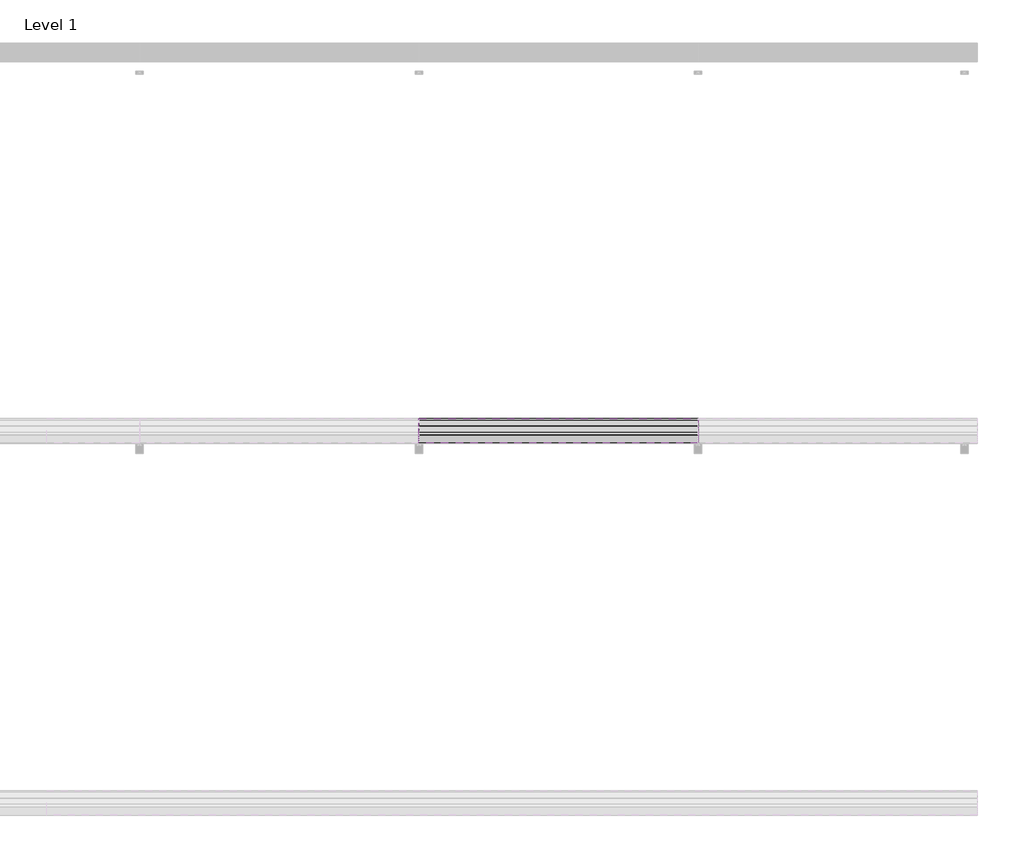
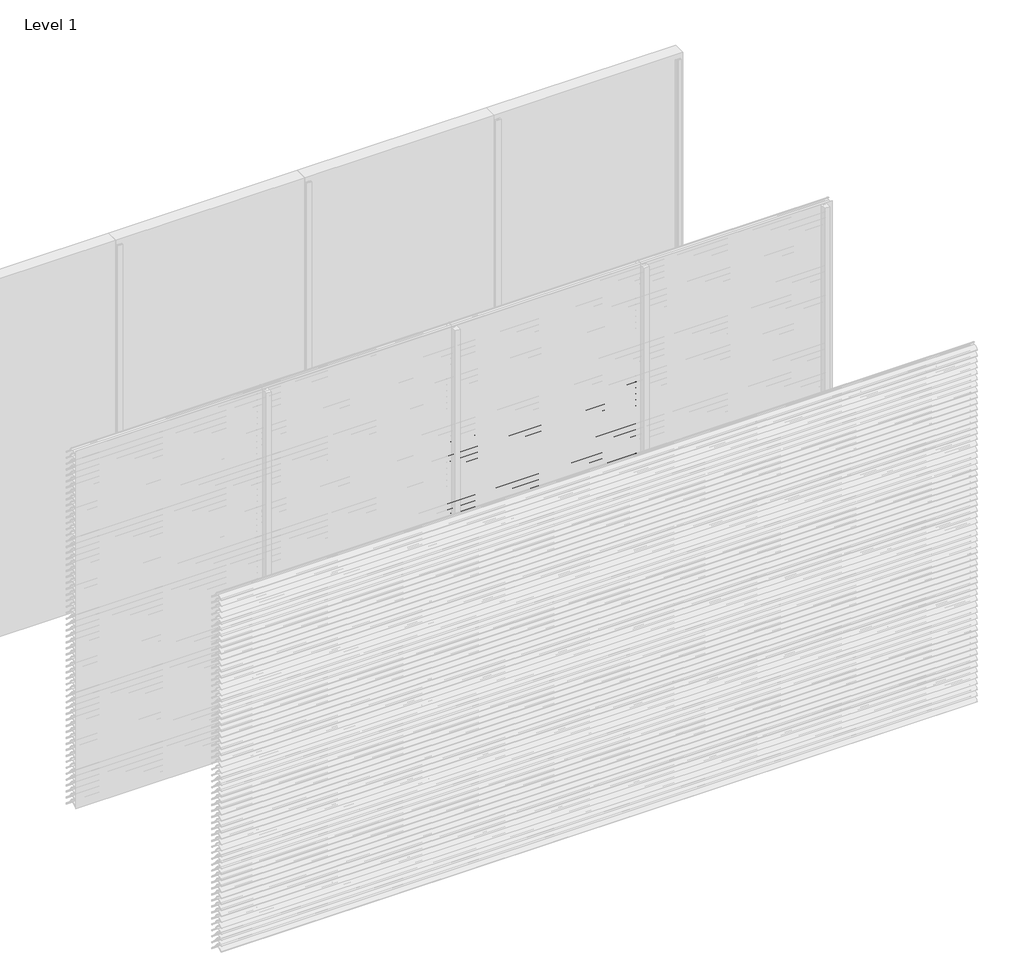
# One storey, part 83 of 173: 17 proxies.
"""IFC4 building model written with IfcOpenShell, lengths in millimetres."""

from ifc_helpers import new_model, si_unit, point, frame, frame_2d, origin, place, context, project, spatial, polyline, circle_curve, trimmed, segment, composite_curve, outline, extrude, element, save

model = new_model("IFC4")

# Units and contexts
model_context = context("Model", 3, world=origin())
ifc_project = project(units=[si_unit("LENGTHUNIT", "METRE", prefix="MILLI")], contexts=[model_context])

# Site, building, storey
site = spatial("IfcSite", under=ifc_project)
building = spatial("IfcBuilding", under=site)
storey = spatial("IfcBuildingStorey", under=building, Name="Level 1", Elevation=0.0)

# Proxies
placement = place(None, origin())
element("IfcBuildingElementProxy", 1, Name="Wall Sweeps", at=placement, inside=storey, context=model_context, shape_type="SweptSolid", body=[
    extrude(outline(composite_curve([segment(polyline([(-29998.0, 1959.1474905), (-29998.0, 1961.6227417)]), True, "CONTINUOUS"), segment(trimmed(circle_curve(frame_2d((-29951.2682172, 1916.2200208)), 65.1557103), [point((-29998.0, 1961.6227417))], [point((-29954.4014323, 1981.3003524))], False, "CARTESIAN"), True, "CONTINUOUS"), segment(polyline([(-29954.4014323, 1981.3003524), (-29934.8315836, 1981.3003524)]), True, "CONTINUOUS"), segment(trimmed(circle_curve(frame_2d((-29732.7329489, 2128.5533172)), 250.0545817), [point((-29934.8315836, 1981.3003524))], [point((-29941.4452143, 1990.8344583))], False, "CARTESIAN"), True, "CONTINUOUS"), segment(trimmed(circle_curve(frame_2d((-29953.2981792, 1985.1737835)), 13.1352966), [point((-29941.4452143, 1990.8344583))], [point((-29953.8171475, 1998.298824))], True, "CARTESIAN"), True, "CONTINUOUS"), segment(polyline([(-29953.8171475, 1998.298824), (-29953.8171475, 2000.0)]), True, "CONTINUOUS"), segment(trimmed(circle_curve(frame_2d((-29953.2981792, 1985.1737835)), 14.8352966), [point((-29953.8171475, 2000.0))], [point((-29939.9637661, 1991.6760487))], False, "CARTESIAN"), True, "CONTINUOUS"), segment(trimmed(circle_curve(frame_2d((-29732.7329489, 2128.5533172)), 248.3545817), [point((-29939.9637661, 1991.6760487))], [point((-29873.8787895, 1924.2059416))], True, "CARTESIAN"), True, "CONTINUOUS"), segment(trimmed(circle_curve(frame_2d((-29883.8147537, 1911.6649442)), 16.0), [point((-29873.8787895, 1924.2059416))], [point((-29867.8648347, 1910.4))], False, "CARTESIAN"), True, "CONTINUOUS"), segment(polyline([(-29867.8648347, 1910.4), (-29869.6712069, 1910.4)]), True, "CONTINUOUS"), segment(trimmed(circle_curve(frame_2d((-29883.8147537, 1911.6649442)), 14.2), [point((-29869.6712069, 1910.4))], [point((-29874.9518628, 1922.7594998))], True, "CARTESIAN"), True, "CONTINUOUS"), segment(trimmed(circle_curve(frame_2d((-29732.7329489, 2128.5533172)), 250.1545817), [point((-29874.9518628, 1922.7594998))], [point((-29933.7064024, 1979.6003524))], False, "CARTESIAN"), True, "CONTINUOUS"), segment(polyline([(-29933.7064024, 1979.6003524), (-29954.3602632, 1979.6003524)]), True, "CONTINUOUS"), segment(trimmed(circle_curve(frame_2d((-29951.2682172, 1916.2200208)), 63.4557103), [point((-29954.3602632, 1979.6003524))], [point((-29998.0, 1959.1474905))], True, "CARTESIAN"), True, "CONTINUOUS")], self_intersect=False)), frame((3000.0, 0.0, 0.0), z_axis=(1.0, 0.0, 0.0), x_axis=(0.0, 1.0, 0.0)), (0.0, 0.0, 1.0), 1500.0),
])
element("IfcBuildingElementProxy", 2, Name="Wall Sweeps", at=placement, inside=storey, context=model_context, shape_type="SweptSolid", body=[
    extrude(outline(composite_curve([segment(polyline([(-29998.0, 1909.1474905), (-29998.0, 1911.6227417)]), True, "CONTINUOUS"), segment(trimmed(circle_curve(frame_2d((-29951.2682172, 1866.2200208)), 65.1557103), [point((-29998.0, 1911.6227417))], [point((-29954.4014323, 1931.3003524))], False, "CARTESIAN"), True, "CONTINUOUS"), segment(polyline([(-29954.4014323, 1931.3003524), (-29934.8315836, 1931.3003524)]), True, "CONTINUOUS"), segment(trimmed(circle_curve(frame_2d((-29732.7329489, 2078.5533172)), 250.0545817), [point((-29934.8315836, 1931.3003524))], [point((-29941.4452143, 1940.8344583))], False, "CARTESIAN"), True, "CONTINUOUS"), segment(trimmed(circle_curve(frame_2d((-29953.2981792, 1935.1737835)), 13.1352966), [point((-29941.4452143, 1940.8344583))], [point((-29953.8171475, 1948.298824))], True, "CARTESIAN"), True, "CONTINUOUS"), segment(polyline([(-29953.8171475, 1948.298824), (-29953.8171475, 1950.0)]), True, "CONTINUOUS"), segment(trimmed(circle_curve(frame_2d((-29953.2981792, 1935.1737835)), 14.8352966), [point((-29953.8171475, 1950.0))], [point((-29939.9637661, 1941.6760487))], False, "CARTESIAN"), True, "CONTINUOUS"), segment(trimmed(circle_curve(frame_2d((-29732.7329489, 2078.5533172)), 248.3545817), [point((-29939.9637661, 1941.6760487))], [point((-29873.8787895, 1874.2059416))], True, "CARTESIAN"), True, "CONTINUOUS"), segment(trimmed(circle_curve(frame_2d((-29883.8147537, 1861.6649442)), 16.0), [point((-29873.8787895, 1874.2059416))], [point((-29867.8648347, 1860.4))], False, "CARTESIAN"), True, "CONTINUOUS"), segment(polyline([(-29867.8648347, 1860.4), (-29869.6712069, 1860.4)]), True, "CONTINUOUS"), segment(trimmed(circle_curve(frame_2d((-29883.8147537, 1861.6649442)), 14.2), [point((-29869.6712069, 1860.4))], [point((-29874.9518628, 1872.7594998))], True, "CARTESIAN"), True, "CONTINUOUS"), segment(trimmed(circle_curve(frame_2d((-29732.7329489, 2078.5533172)), 250.1545817), [point((-29874.9518628, 1872.7594998))], [point((-29933.7064024, 1929.6003524))], False, "CARTESIAN"), True, "CONTINUOUS"), segment(polyline([(-29933.7064024, 1929.6003524), (-29954.3602632, 1929.6003524)]), True, "CONTINUOUS"), segment(trimmed(circle_curve(frame_2d((-29951.2682172, 1866.2200208)), 63.4557103), [point((-29954.3602632, 1929.6003524))], [point((-29998.0, 1909.1474905))], True, "CARTESIAN"), True, "CONTINUOUS")], self_intersect=False)), frame((3000.0, 0.0, 0.0), z_axis=(1.0, 0.0, 0.0), x_axis=(0.0, 1.0, 0.0)), (0.0, 0.0, 1.0), 1500.0),
])
element("IfcBuildingElementProxy", 3, Name="Wall Sweeps", at=placement, inside=storey, context=model_context, shape_type="SweptSolid", body=[
    extrude(outline(composite_curve([segment(polyline([(-29998.0, 1859.1474905), (-29998.0, 1861.6227417)]), True, "CONTINUOUS"), segment(trimmed(circle_curve(frame_2d((-29951.2682172, 1816.2200208)), 65.1557103), [point((-29998.0, 1861.6227417))], [point((-29954.4014323, 1881.3003524))], False, "CARTESIAN"), True, "CONTINUOUS"), segment(polyline([(-29954.4014323, 1881.3003524), (-29934.8315836, 1881.3003524)]), True, "CONTINUOUS"), segment(trimmed(circle_curve(frame_2d((-29732.7329489, 2028.5533172)), 250.0545817), [point((-29934.8315836, 1881.3003524))], [point((-29941.4452143, 1890.8344583))], False, "CARTESIAN"), True, "CONTINUOUS"), segment(trimmed(circle_curve(frame_2d((-29953.2981792, 1885.1737835)), 13.1352966), [point((-29941.4452143, 1890.8344583))], [point((-29953.8171475, 1898.298824))], True, "CARTESIAN"), True, "CONTINUOUS"), segment(polyline([(-29953.8171475, 1898.298824), (-29953.8171475, 1900.0)]), True, "CONTINUOUS"), segment(trimmed(circle_curve(frame_2d((-29953.2981792, 1885.1737835)), 14.8352966), [point((-29953.8171475, 1900.0))], [point((-29939.9637661, 1891.6760487))], False, "CARTESIAN"), True, "CONTINUOUS"), segment(trimmed(circle_curve(frame_2d((-29732.7329489, 2028.5533172)), 248.3545817), [point((-29939.9637661, 1891.6760487))], [point((-29873.8787895, 1824.2059416))], True, "CARTESIAN"), True, "CONTINUOUS"), segment(trimmed(circle_curve(frame_2d((-29883.8147537, 1811.6649442)), 16.0), [point((-29873.8787895, 1824.2059416))], [point((-29867.8648347, 1810.4))], False, "CARTESIAN"), True, "CONTINUOUS"), segment(polyline([(-29867.8648347, 1810.4), (-29869.6712069, 1810.4)]), True, "CONTINUOUS"), segment(trimmed(circle_curve(frame_2d((-29883.8147537, 1811.6649442)), 14.2), [point((-29869.6712069, 1810.4))], [point((-29874.9518628, 1822.7594998))], True, "CARTESIAN"), True, "CONTINUOUS"), segment(trimmed(circle_curve(frame_2d((-29732.7329489, 2028.5533172)), 250.1545817), [point((-29874.9518628, 1822.7594998))], [point((-29933.7064024, 1879.6003524))], False, "CARTESIAN"), True, "CONTINUOUS"), segment(polyline([(-29933.7064024, 1879.6003524), (-29954.3602632, 1879.6003524)]), True, "CONTINUOUS"), segment(trimmed(circle_curve(frame_2d((-29951.2682172, 1816.2200208)), 63.4557103), [point((-29954.3602632, 1879.6003524))], [point((-29998.0, 1859.1474905))], True, "CARTESIAN"), True, "CONTINUOUS")], self_intersect=False)), frame((3000.0, 0.0, 0.0), z_axis=(1.0, 0.0, 0.0), x_axis=(0.0, 1.0, 0.0)), (0.0, 0.0, 1.0), 1500.0),
])
element("IfcBuildingElementProxy", 4, Name="Wall Sweeps", at=placement, inside=storey, context=model_context, shape_type="SweptSolid", body=[
    extrude(outline(composite_curve([segment(polyline([(-29998.0, 1809.1474905), (-29998.0, 1811.6227417)]), True, "CONTINUOUS"), segment(trimmed(circle_curve(frame_2d((-29951.2682172, 1766.2200208)), 65.1557103), [point((-29998.0, 1811.6227417))], [point((-29954.4014323, 1831.3003524))], False, "CARTESIAN"), True, "CONTINUOUS"), segment(polyline([(-29954.4014323, 1831.3003524), (-29934.8315836, 1831.3003524)]), True, "CONTINUOUS"), segment(trimmed(circle_curve(frame_2d((-29732.7329489, 1978.5533172)), 250.0545817), [point((-29934.8315836, 1831.3003524))], [point((-29941.4452143, 1840.8344583))], False, "CARTESIAN"), True, "CONTINUOUS"), segment(trimmed(circle_curve(frame_2d((-29953.2981792, 1835.1737835)), 13.1352966), [point((-29941.4452143, 1840.8344583))], [point((-29953.8171475, 1848.298824))], True, "CARTESIAN"), True, "CONTINUOUS"), segment(polyline([(-29953.8171475, 1848.298824), (-29953.8171475, 1850.0)]), True, "CONTINUOUS"), segment(trimmed(circle_curve(frame_2d((-29953.2981792, 1835.1737835)), 14.8352966), [point((-29953.8171475, 1850.0))], [point((-29939.9637661, 1841.6760487))], False, "CARTESIAN"), True, "CONTINUOUS"), segment(trimmed(circle_curve(frame_2d((-29732.7329489, 1978.5533172)), 248.3545817), [point((-29939.9637661, 1841.6760487))], [point((-29873.8787895, 1774.2059416))], True, "CARTESIAN"), True, "CONTINUOUS"), segment(trimmed(circle_curve(frame_2d((-29883.8147537, 1761.6649442)), 16.0), [point((-29873.8787895, 1774.2059416))], [point((-29867.8648347, 1760.4))], False, "CARTESIAN"), True, "CONTINUOUS"), segment(polyline([(-29867.8648347, 1760.4), (-29869.6712069, 1760.4)]), True, "CONTINUOUS"), segment(trimmed(circle_curve(frame_2d((-29883.8147537, 1761.6649442)), 14.2), [point((-29869.6712069, 1760.4))], [point((-29874.9518628, 1772.7594998))], True, "CARTESIAN"), True, "CONTINUOUS"), segment(trimmed(circle_curve(frame_2d((-29732.7329489, 1978.5533172)), 250.1545817), [point((-29874.9518628, 1772.7594998))], [point((-29933.7064024, 1829.6003524))], False, "CARTESIAN"), True, "CONTINUOUS"), segment(polyline([(-29933.7064024, 1829.6003524), (-29954.3602632, 1829.6003524)]), True, "CONTINUOUS"), segment(trimmed(circle_curve(frame_2d((-29951.2682172, 1766.2200208)), 63.4557103), [point((-29954.3602632, 1829.6003524))], [point((-29998.0, 1809.1474905))], True, "CARTESIAN"), True, "CONTINUOUS")], self_intersect=False)), frame((3000.0, 0.0, 0.0), z_axis=(1.0, 0.0, 0.0), x_axis=(0.0, 1.0, 0.0)), (0.0, 0.0, 1.0), 1500.0),
])
element("IfcBuildingElementProxy", 5, Name="Wall Sweeps", at=placement, inside=storey, context=model_context, shape_type="SweptSolid", body=[
    extrude(outline(composite_curve([segment(polyline([(-29998.0, 1759.1474905), (-29998.0, 1761.6227417)]), True, "CONTINUOUS"), segment(trimmed(circle_curve(frame_2d((-29951.2682172, 1716.2200208)), 65.1557103), [point((-29998.0, 1761.6227417))], [point((-29954.4014323, 1781.3003524))], False, "CARTESIAN"), True, "CONTINUOUS"), segment(polyline([(-29954.4014323, 1781.3003524), (-29934.8315836, 1781.3003524)]), True, "CONTINUOUS"), segment(trimmed(circle_curve(frame_2d((-29732.7329489, 1928.5533172)), 250.0545817), [point((-29934.8315836, 1781.3003524))], [point((-29941.4452143, 1790.8344583))], False, "CARTESIAN"), True, "CONTINUOUS"), segment(trimmed(circle_curve(frame_2d((-29953.2981792, 1785.1737835)), 13.1352966), [point((-29941.4452143, 1790.8344583))], [point((-29953.8171475, 1798.298824))], True, "CARTESIAN"), True, "CONTINUOUS"), segment(polyline([(-29953.8171475, 1798.298824), (-29953.8171475, 1800.0)]), True, "CONTINUOUS"), segment(trimmed(circle_curve(frame_2d((-29953.2981792, 1785.1737835)), 14.8352966), [point((-29953.8171475, 1800.0))], [point((-29939.9637661, 1791.6760487))], False, "CARTESIAN"), True, "CONTINUOUS"), segment(trimmed(circle_curve(frame_2d((-29732.7329489, 1928.5533172)), 248.3545817), [point((-29939.9637661, 1791.6760487))], [point((-29873.8787895, 1724.2059416))], True, "CARTESIAN"), True, "CONTINUOUS"), segment(trimmed(circle_curve(frame_2d((-29883.8147537, 1711.6649442)), 16.0), [point((-29873.8787895, 1724.2059416))], [point((-29867.8648347, 1710.4))], False, "CARTESIAN"), True, "CONTINUOUS"), segment(polyline([(-29867.8648347, 1710.4), (-29869.6712069, 1710.4)]), True, "CONTINUOUS"), segment(trimmed(circle_curve(frame_2d((-29883.8147537, 1711.6649442)), 14.2), [point((-29869.6712069, 1710.4))], [point((-29874.9518628, 1722.7594998))], True, "CARTESIAN"), True, "CONTINUOUS"), segment(trimmed(circle_curve(frame_2d((-29732.7329489, 1928.5533172)), 250.1545817), [point((-29874.9518628, 1722.7594998))], [point((-29933.7064024, 1779.6003524))], False, "CARTESIAN"), True, "CONTINUOUS"), segment(polyline([(-29933.7064024, 1779.6003524), (-29954.3602632, 1779.6003524)]), True, "CONTINUOUS"), segment(trimmed(circle_curve(frame_2d((-29951.2682172, 1716.2200208)), 63.4557103), [point((-29954.3602632, 1779.6003524))], [point((-29998.0, 1759.1474905))], True, "CARTESIAN"), True, "CONTINUOUS")], self_intersect=False)), frame((3000.0, 0.0, 0.0), z_axis=(1.0, 0.0, 0.0), x_axis=(0.0, 1.0, 0.0)), (0.0, 0.0, 1.0), 1500.0),
])
element("IfcBuildingElementProxy", 6, Name="Wall Sweeps", at=placement, inside=storey, context=model_context, shape_type="SweptSolid", body=[
    extrude(outline(composite_curve([segment(polyline([(-29998.0, 1709.1474905), (-29998.0, 1711.6227417)]), True, "CONTINUOUS"), segment(trimmed(circle_curve(frame_2d((-29951.2682172, 1666.2200208)), 65.1557103), [point((-29998.0, 1711.6227417))], [point((-29954.4014323, 1731.3003524))], False, "CARTESIAN"), True, "CONTINUOUS"), segment(polyline([(-29954.4014323, 1731.3003524), (-29934.8315836, 1731.3003524)]), True, "CONTINUOUS"), segment(trimmed(circle_curve(frame_2d((-29732.7329489, 1878.5533172)), 250.0545817), [point((-29934.8315836, 1731.3003524))], [point((-29941.4452143, 1740.8344583))], False, "CARTESIAN"), True, "CONTINUOUS"), segment(trimmed(circle_curve(frame_2d((-29953.2981792, 1735.1737835)), 13.1352966), [point((-29941.4452143, 1740.8344583))], [point((-29953.8171475, 1748.298824))], True, "CARTESIAN"), True, "CONTINUOUS"), segment(polyline([(-29953.8171475, 1748.298824), (-29953.8171475, 1750.0)]), True, "CONTINUOUS"), segment(trimmed(circle_curve(frame_2d((-29953.2981792, 1735.1737835)), 14.8352966), [point((-29953.8171475, 1750.0))], [point((-29939.9637661, 1741.6760487))], False, "CARTESIAN"), True, "CONTINUOUS"), segment(trimmed(circle_curve(frame_2d((-29732.7329489, 1878.5533172)), 248.3545817), [point((-29939.9637661, 1741.6760487))], [point((-29873.8787895, 1674.2059416))], True, "CARTESIAN"), True, "CONTINUOUS"), segment(trimmed(circle_curve(frame_2d((-29883.8147537, 1661.6649442)), 16.0), [point((-29873.8787895, 1674.2059416))], [point((-29867.8648347, 1660.4))], False, "CARTESIAN"), True, "CONTINUOUS"), segment(polyline([(-29867.8648347, 1660.4), (-29869.6712069, 1660.4)]), True, "CONTINUOUS"), segment(trimmed(circle_curve(frame_2d((-29883.8147537, 1661.6649442)), 14.2), [point((-29869.6712069, 1660.4))], [point((-29874.9518628, 1672.7594998))], True, "CARTESIAN"), True, "CONTINUOUS"), segment(trimmed(circle_curve(frame_2d((-29732.7329489, 1878.5533172)), 250.1545817), [point((-29874.9518628, 1672.7594998))], [point((-29933.7064024, 1729.6003524))], False, "CARTESIAN"), True, "CONTINUOUS"), segment(polyline([(-29933.7064024, 1729.6003524), (-29954.3602632, 1729.6003524)]), True, "CONTINUOUS"), segment(trimmed(circle_curve(frame_2d((-29951.2682172, 1666.2200208)), 63.4557103), [point((-29954.3602632, 1729.6003524))], [point((-29998.0, 1709.1474905))], True, "CARTESIAN"), True, "CONTINUOUS")], self_intersect=False)), frame((3000.0, 0.0, 0.0), z_axis=(1.0, 0.0, 0.0), x_axis=(0.0, 1.0, 0.0)), (0.0, 0.0, 1.0), 1500.0),
])
element("IfcBuildingElementProxy", 7, Name="Wall Sweeps", at=placement, inside=storey, context=model_context, shape_type="SweptSolid", body=[
    extrude(outline(composite_curve([segment(polyline([(-29998.0, 1659.1474905), (-29998.0, 1661.6227417)]), True, "CONTINUOUS"), segment(trimmed(circle_curve(frame_2d((-29951.2682172, 1616.2200208)), 65.1557103), [point((-29998.0, 1661.6227417))], [point((-29954.4014323, 1681.3003524))], False, "CARTESIAN"), True, "CONTINUOUS"), segment(polyline([(-29954.4014323, 1681.3003524), (-29934.8315836, 1681.3003524)]), True, "CONTINUOUS"), segment(trimmed(circle_curve(frame_2d((-29732.7329489, 1828.5533172)), 250.0545817), [point((-29934.8315836, 1681.3003524))], [point((-29941.4452143, 1690.8344583))], False, "CARTESIAN"), True, "CONTINUOUS"), segment(trimmed(circle_curve(frame_2d((-29953.2981792, 1685.1737835)), 13.1352966), [point((-29941.4452143, 1690.8344583))], [point((-29953.8171475, 1698.298824))], True, "CARTESIAN"), True, "CONTINUOUS"), segment(polyline([(-29953.8171475, 1698.298824), (-29953.8171475, 1700.0)]), True, "CONTINUOUS"), segment(trimmed(circle_curve(frame_2d((-29953.2981792, 1685.1737835)), 14.8352966), [point((-29953.8171475, 1700.0))], [point((-29939.9637661, 1691.6760487))], False, "CARTESIAN"), True, "CONTINUOUS"), segment(trimmed(circle_curve(frame_2d((-29732.7329489, 1828.5533172)), 248.3545817), [point((-29939.9637661, 1691.6760487))], [point((-29873.8787895, 1624.2059416))], True, "CARTESIAN"), True, "CONTINUOUS"), segment(trimmed(circle_curve(frame_2d((-29883.8147537, 1611.6649442)), 16.0), [point((-29873.8787895, 1624.2059416))], [point((-29867.8648347, 1610.4))], False, "CARTESIAN"), True, "CONTINUOUS"), segment(polyline([(-29867.8648347, 1610.4), (-29869.6712069, 1610.4)]), True, "CONTINUOUS"), segment(trimmed(circle_curve(frame_2d((-29883.8147537, 1611.6649442)), 14.2), [point((-29869.6712069, 1610.4))], [point((-29874.9518628, 1622.7594998))], True, "CARTESIAN"), True, "CONTINUOUS"), segment(trimmed(circle_curve(frame_2d((-29732.7329489, 1828.5533172)), 250.1545817), [point((-29874.9518628, 1622.7594998))], [point((-29933.7064024, 1679.6003524))], False, "CARTESIAN"), True, "CONTINUOUS"), segment(polyline([(-29933.7064024, 1679.6003524), (-29954.3602632, 1679.6003524)]), True, "CONTINUOUS"), segment(trimmed(circle_curve(frame_2d((-29951.2682172, 1616.2200208)), 63.4557103), [point((-29954.3602632, 1679.6003524))], [point((-29998.0, 1659.1474905))], True, "CARTESIAN"), True, "CONTINUOUS")], self_intersect=False)), frame((3000.0, 0.0, 0.0), z_axis=(1.0, 0.0, 0.0), x_axis=(0.0, 1.0, 0.0)), (0.0, 0.0, 1.0), 1500.0),
])
element("IfcBuildingElementProxy", 8, Name="Wall Sweeps", at=placement, inside=storey, context=model_context, shape_type="SweptSolid", body=[
    extrude(outline(composite_curve([segment(polyline([(-29998.0, 1609.1474905), (-29998.0, 1611.6227417)]), True, "CONTINUOUS"), segment(trimmed(circle_curve(frame_2d((-29951.2682172, 1566.2200208)), 65.1557103), [point((-29998.0, 1611.6227417))], [point((-29954.4014323, 1631.3003524))], False, "CARTESIAN"), True, "CONTINUOUS"), segment(polyline([(-29954.4014323, 1631.3003524), (-29934.8315836, 1631.3003524)]), True, "CONTINUOUS"), segment(trimmed(circle_curve(frame_2d((-29732.7329489, 1778.5533172)), 250.0545817), [point((-29934.8315836, 1631.3003524))], [point((-29941.4452143, 1640.8344583))], False, "CARTESIAN"), True, "CONTINUOUS"), segment(trimmed(circle_curve(frame_2d((-29953.2981792, 1635.1737835)), 13.1352966), [point((-29941.4452143, 1640.8344583))], [point((-29953.8171475, 1648.298824))], True, "CARTESIAN"), True, "CONTINUOUS"), segment(polyline([(-29953.8171475, 1648.298824), (-29953.8171475, 1650.0)]), True, "CONTINUOUS"), segment(trimmed(circle_curve(frame_2d((-29953.2981792, 1635.1737835)), 14.8352966), [point((-29953.8171475, 1650.0))], [point((-29939.9637661, 1641.6760487))], False, "CARTESIAN"), True, "CONTINUOUS"), segment(trimmed(circle_curve(frame_2d((-29732.7329489, 1778.5533172)), 248.3545817), [point((-29939.9637661, 1641.6760487))], [point((-29873.8787895, 1574.2059416))], True, "CARTESIAN"), True, "CONTINUOUS"), segment(trimmed(circle_curve(frame_2d((-29883.8147537, 1561.6649442)), 16.0), [point((-29873.8787895, 1574.2059416))], [point((-29867.8648347, 1560.4))], False, "CARTESIAN"), True, "CONTINUOUS"), segment(polyline([(-29867.8648347, 1560.4), (-29869.6712069, 1560.4)]), True, "CONTINUOUS"), segment(trimmed(circle_curve(frame_2d((-29883.8147537, 1561.6649442)), 14.2), [point((-29869.6712069, 1560.4))], [point((-29874.9518628, 1572.7594998))], True, "CARTESIAN"), True, "CONTINUOUS"), segment(trimmed(circle_curve(frame_2d((-29732.7329489, 1778.5533172)), 250.1545817), [point((-29874.9518628, 1572.7594998))], [point((-29933.7064024, 1629.6003524))], False, "CARTESIAN"), True, "CONTINUOUS"), segment(polyline([(-29933.7064024, 1629.6003524), (-29954.3602632, 1629.6003524)]), True, "CONTINUOUS"), segment(trimmed(circle_curve(frame_2d((-29951.2682172, 1566.2200208)), 63.4557103), [point((-29954.3602632, 1629.6003524))], [point((-29998.0, 1609.1474905))], True, "CARTESIAN"), True, "CONTINUOUS")], self_intersect=False)), frame((3000.0, 0.0, 0.0), z_axis=(1.0, 0.0, 0.0), x_axis=(0.0, 1.0, 0.0)), (0.0, 0.0, 1.0), 1500.0),
])
element("IfcBuildingElementProxy", 9, Name="Wall Sweeps", at=placement, inside=storey, context=model_context, shape_type="SweptSolid", body=[
    extrude(outline(composite_curve([segment(polyline([(-29998.0, 1559.1474905), (-29998.0, 1561.6227417)]), True, "CONTINUOUS"), segment(trimmed(circle_curve(frame_2d((-29951.2682172, 1516.2200208)), 65.1557103), [point((-29998.0, 1561.6227417))], [point((-29954.4014323, 1581.3003524))], False, "CARTESIAN"), True, "CONTINUOUS"), segment(polyline([(-29954.4014323, 1581.3003524), (-29934.8315836, 1581.3003524)]), True, "CONTINUOUS"), segment(trimmed(circle_curve(frame_2d((-29732.7329489, 1728.5533172)), 250.0545817), [point((-29934.8315836, 1581.3003524))], [point((-29941.4452143, 1590.8344583))], False, "CARTESIAN"), True, "CONTINUOUS"), segment(trimmed(circle_curve(frame_2d((-29953.2981792, 1585.1737835)), 13.1352966), [point((-29941.4452143, 1590.8344583))], [point((-29953.8171475, 1598.298824))], True, "CARTESIAN"), True, "CONTINUOUS"), segment(polyline([(-29953.8171475, 1598.298824), (-29953.8171475, 1600.0)]), True, "CONTINUOUS"), segment(trimmed(circle_curve(frame_2d((-29953.2981792, 1585.1737835)), 14.8352966), [point((-29953.8171475, 1600.0))], [point((-29939.9637661, 1591.6760487))], False, "CARTESIAN"), True, "CONTINUOUS"), segment(trimmed(circle_curve(frame_2d((-29732.7329489, 1728.5533172)), 248.3545817), [point((-29939.9637661, 1591.6760487))], [point((-29873.8787895, 1524.2059416))], True, "CARTESIAN"), True, "CONTINUOUS"), segment(trimmed(circle_curve(frame_2d((-29883.8147537, 1511.6649442)), 16.0), [point((-29873.8787895, 1524.2059416))], [point((-29867.8648347, 1510.4))], False, "CARTESIAN"), True, "CONTINUOUS"), segment(polyline([(-29867.8648347, 1510.4), (-29869.6712069, 1510.4)]), True, "CONTINUOUS"), segment(trimmed(circle_curve(frame_2d((-29883.8147537, 1511.6649442)), 14.2), [point((-29869.6712069, 1510.4))], [point((-29874.9518628, 1522.7594998))], True, "CARTESIAN"), True, "CONTINUOUS"), segment(trimmed(circle_curve(frame_2d((-29732.7329489, 1728.5533172)), 250.1545817), [point((-29874.9518628, 1522.7594998))], [point((-29933.7064024, 1579.6003524))], False, "CARTESIAN"), True, "CONTINUOUS"), segment(polyline([(-29933.7064024, 1579.6003524), (-29954.3602632, 1579.6003524)]), True, "CONTINUOUS"), segment(trimmed(circle_curve(frame_2d((-29951.2682172, 1516.2200208)), 63.4557103), [point((-29954.3602632, 1579.6003524))], [point((-29998.0, 1559.1474905))], True, "CARTESIAN"), True, "CONTINUOUS")], self_intersect=False)), frame((3000.0, 0.0, 0.0), z_axis=(1.0, 0.0, 0.0), x_axis=(0.0, 1.0, 0.0)), (0.0, 0.0, 1.0), 1500.0),
])
element("IfcBuildingElementProxy", 10, Name="Wall Sweeps", at=placement, inside=storey, context=model_context, shape_type="SweptSolid", body=[
    extrude(outline(composite_curve([segment(polyline([(-29998.0, 1509.1474905), (-29998.0, 1511.6227417)]), True, "CONTINUOUS"), segment(trimmed(circle_curve(frame_2d((-29951.2682172, 1466.2200208)), 65.1557103), [point((-29998.0, 1511.6227417))], [point((-29954.4014323, 1531.3003524))], False, "CARTESIAN"), True, "CONTINUOUS"), segment(polyline([(-29954.4014323, 1531.3003524), (-29934.8315836, 1531.3003524)]), True, "CONTINUOUS"), segment(trimmed(circle_curve(frame_2d((-29732.7329489, 1678.5533172)), 250.0545817), [point((-29934.8315836, 1531.3003524))], [point((-29941.4452143, 1540.8344583))], False, "CARTESIAN"), True, "CONTINUOUS"), segment(trimmed(circle_curve(frame_2d((-29953.2981792, 1535.1737835)), 13.1352966), [point((-29941.4452143, 1540.8344583))], [point((-29953.8171475, 1548.298824))], True, "CARTESIAN"), True, "CONTINUOUS"), segment(polyline([(-29953.8171475, 1548.298824), (-29953.8171475, 1550.0)]), True, "CONTINUOUS"), segment(trimmed(circle_curve(frame_2d((-29953.2981792, 1535.1737835)), 14.8352966), [point((-29953.8171475, 1550.0))], [point((-29939.9637661, 1541.6760487))], False, "CARTESIAN"), True, "CONTINUOUS"), segment(trimmed(circle_curve(frame_2d((-29732.7329489, 1678.5533172)), 248.3545817), [point((-29939.9637661, 1541.6760487))], [point((-29873.8787895, 1474.2059416))], True, "CARTESIAN"), True, "CONTINUOUS"), segment(trimmed(circle_curve(frame_2d((-29883.8147537, 1461.6649442)), 16.0), [point((-29873.8787895, 1474.2059416))], [point((-29867.8648347, 1460.4))], False, "CARTESIAN"), True, "CONTINUOUS"), segment(polyline([(-29867.8648347, 1460.4), (-29869.6712069, 1460.4)]), True, "CONTINUOUS"), segment(trimmed(circle_curve(frame_2d((-29883.8147537, 1461.6649442)), 14.2), [point((-29869.6712069, 1460.4))], [point((-29874.9518628, 1472.7594998))], True, "CARTESIAN"), True, "CONTINUOUS"), segment(trimmed(circle_curve(frame_2d((-29732.7329489, 1678.5533172)), 250.1545817), [point((-29874.9518628, 1472.7594998))], [point((-29933.7064024, 1529.6003524))], False, "CARTESIAN"), True, "CONTINUOUS"), segment(polyline([(-29933.7064024, 1529.6003524), (-29954.3602632, 1529.6003524)]), True, "CONTINUOUS"), segment(trimmed(circle_curve(frame_2d((-29951.2682172, 1466.2200208)), 63.4557103), [point((-29954.3602632, 1529.6003524))], [point((-29998.0, 1509.1474905))], True, "CARTESIAN"), True, "CONTINUOUS")], self_intersect=False)), frame((3000.0, 0.0, 0.0), z_axis=(1.0, 0.0, 0.0), x_axis=(0.0, 1.0, 0.0)), (0.0, 0.0, 1.0), 1500.0),
])
element("IfcBuildingElementProxy", 11, Name="Wall Sweeps", at=placement, inside=storey, context=model_context, shape_type="SweptSolid", body=[
    extrude(outline(composite_curve([segment(polyline([(-29998.0, 1459.1474905), (-29998.0, 1461.6227417)]), True, "CONTINUOUS"), segment(trimmed(circle_curve(frame_2d((-29951.2682172, 1416.2200208)), 65.1557103), [point((-29998.0, 1461.6227417))], [point((-29954.4014323, 1481.3003524))], False, "CARTESIAN"), True, "CONTINUOUS"), segment(polyline([(-29954.4014323, 1481.3003524), (-29934.8315836, 1481.3003524)]), True, "CONTINUOUS"), segment(trimmed(circle_curve(frame_2d((-29732.7329489, 1628.5533172)), 250.0545817), [point((-29934.8315836, 1481.3003524))], [point((-29941.4452143, 1490.8344583))], False, "CARTESIAN"), True, "CONTINUOUS"), segment(trimmed(circle_curve(frame_2d((-29953.2981792, 1485.1737835)), 13.1352966), [point((-29941.4452143, 1490.8344583))], [point((-29953.8171475, 1498.298824))], True, "CARTESIAN"), True, "CONTINUOUS"), segment(polyline([(-29953.8171475, 1498.298824), (-29953.8171475, 1500.0)]), True, "CONTINUOUS"), segment(trimmed(circle_curve(frame_2d((-29953.2981792, 1485.1737835)), 14.8352966), [point((-29953.8171475, 1500.0))], [point((-29939.9637661, 1491.6760487))], False, "CARTESIAN"), True, "CONTINUOUS"), segment(trimmed(circle_curve(frame_2d((-29732.7329489, 1628.5533172)), 248.3545817), [point((-29939.9637661, 1491.6760487))], [point((-29873.8787895, 1424.2059416))], True, "CARTESIAN"), True, "CONTINUOUS"), segment(trimmed(circle_curve(frame_2d((-29883.8147537, 1411.6649442)), 16.0), [point((-29873.8787895, 1424.2059416))], [point((-29867.8648347, 1410.4))], False, "CARTESIAN"), True, "CONTINUOUS"), segment(polyline([(-29867.8648347, 1410.4), (-29869.6712069, 1410.4)]), True, "CONTINUOUS"), segment(trimmed(circle_curve(frame_2d((-29883.8147537, 1411.6649442)), 14.2), [point((-29869.6712069, 1410.4))], [point((-29874.9518628, 1422.7594998))], True, "CARTESIAN"), True, "CONTINUOUS"), segment(trimmed(circle_curve(frame_2d((-29732.7329489, 1628.5533172)), 250.1545817), [point((-29874.9518628, 1422.7594998))], [point((-29933.7064024, 1479.6003524))], False, "CARTESIAN"), True, "CONTINUOUS"), segment(polyline([(-29933.7064024, 1479.6003524), (-29954.3602632, 1479.6003524)]), True, "CONTINUOUS"), segment(trimmed(circle_curve(frame_2d((-29951.2682172, 1416.2200208)), 63.4557103), [point((-29954.3602632, 1479.6003524))], [point((-29998.0, 1459.1474905))], True, "CARTESIAN"), True, "CONTINUOUS")], self_intersect=False)), frame((3000.0, 0.0, 0.0), z_axis=(1.0, 0.0, 0.0), x_axis=(0.0, 1.0, 0.0)), (0.0, 0.0, 1.0), 1500.0),
])
element("IfcBuildingElementProxy", 12, Name="Wall Sweeps", at=placement, inside=storey, context=model_context, shape_type="SweptSolid", body=[
    extrude(outline(composite_curve([segment(polyline([(-29998.0, 1409.1474905), (-29998.0, 1411.6227417)]), True, "CONTINUOUS"), segment(trimmed(circle_curve(frame_2d((-29951.2682172, 1366.2200208)), 65.1557103), [point((-29998.0, 1411.6227417))], [point((-29954.4014323, 1431.3003524))], False, "CARTESIAN"), True, "CONTINUOUS"), segment(polyline([(-29954.4014323, 1431.3003524), (-29934.8315836, 1431.3003524)]), True, "CONTINUOUS"), segment(trimmed(circle_curve(frame_2d((-29732.7329489, 1578.5533172)), 250.0545817), [point((-29934.8315836, 1431.3003524))], [point((-29941.4452143, 1440.8344583))], False, "CARTESIAN"), True, "CONTINUOUS"), segment(trimmed(circle_curve(frame_2d((-29953.2981792, 1435.1737835)), 13.1352966), [point((-29941.4452143, 1440.8344583))], [point((-29953.8171475, 1448.298824))], True, "CARTESIAN"), True, "CONTINUOUS"), segment(polyline([(-29953.8171475, 1448.298824), (-29953.8171475, 1450.0)]), True, "CONTINUOUS"), segment(trimmed(circle_curve(frame_2d((-29953.2981792, 1435.1737835)), 14.8352966), [point((-29953.8171475, 1450.0))], [point((-29939.9637661, 1441.6760487))], False, "CARTESIAN"), True, "CONTINUOUS"), segment(trimmed(circle_curve(frame_2d((-29732.7329489, 1578.5533172)), 248.3545817), [point((-29939.9637661, 1441.6760487))], [point((-29873.8787895, 1374.2059416))], True, "CARTESIAN"), True, "CONTINUOUS"), segment(trimmed(circle_curve(frame_2d((-29883.8147537, 1361.6649442)), 16.0), [point((-29873.8787895, 1374.2059416))], [point((-29867.8648347, 1360.4))], False, "CARTESIAN"), True, "CONTINUOUS"), segment(polyline([(-29867.8648347, 1360.4), (-29869.6712069, 1360.4)]), True, "CONTINUOUS"), segment(trimmed(circle_curve(frame_2d((-29883.8147537, 1361.6649442)), 14.2), [point((-29869.6712069, 1360.4))], [point((-29874.9518628, 1372.7594998))], True, "CARTESIAN"), True, "CONTINUOUS"), segment(trimmed(circle_curve(frame_2d((-29732.7329489, 1578.5533172)), 250.1545817), [point((-29874.9518628, 1372.7594998))], [point((-29933.7064024, 1429.6003524))], False, "CARTESIAN"), True, "CONTINUOUS"), segment(polyline([(-29933.7064024, 1429.6003524), (-29954.3602632, 1429.6003524)]), True, "CONTINUOUS"), segment(trimmed(circle_curve(frame_2d((-29951.2682172, 1366.2200208)), 63.4557103), [point((-29954.3602632, 1429.6003524))], [point((-29998.0, 1409.1474905))], True, "CARTESIAN"), True, "CONTINUOUS")], self_intersect=False)), frame((3000.0, 0.0, 0.0), z_axis=(1.0, 0.0, 0.0), x_axis=(0.0, 1.0, 0.0)), (0.0, 0.0, 1.0), 1500.0),
])
element("IfcBuildingElementProxy", 13, Name="Wall Sweeps", at=placement, inside=storey, context=model_context, shape_type="SweptSolid", body=[
    extrude(outline(composite_curve([segment(polyline([(-29998.0, 1359.1474905), (-29998.0, 1361.6227417)]), True, "CONTINUOUS"), segment(trimmed(circle_curve(frame_2d((-29951.2682172, 1316.2200208)), 65.1557103), [point((-29998.0, 1361.6227417))], [point((-29954.4014323, 1381.3003524))], False, "CARTESIAN"), True, "CONTINUOUS"), segment(polyline([(-29954.4014323, 1381.3003524), (-29934.8315836, 1381.3003524)]), True, "CONTINUOUS"), segment(trimmed(circle_curve(frame_2d((-29732.7329489, 1528.5533172)), 250.0545817), [point((-29934.8315836, 1381.3003524))], [point((-29941.4452143, 1390.8344583))], False, "CARTESIAN"), True, "CONTINUOUS"), segment(trimmed(circle_curve(frame_2d((-29953.2981792, 1385.1737835)), 13.1352966), [point((-29941.4452143, 1390.8344583))], [point((-29953.8171475, 1398.298824))], True, "CARTESIAN"), True, "CONTINUOUS"), segment(polyline([(-29953.8171475, 1398.298824), (-29953.8171475, 1400.0)]), True, "CONTINUOUS"), segment(trimmed(circle_curve(frame_2d((-29953.2981792, 1385.1737835)), 14.8352966), [point((-29953.8171475, 1400.0))], [point((-29939.9637661, 1391.6760487))], False, "CARTESIAN"), True, "CONTINUOUS"), segment(trimmed(circle_curve(frame_2d((-29732.7329489, 1528.5533172)), 248.3545817), [point((-29939.9637661, 1391.6760487))], [point((-29873.8787895, 1324.2059416))], True, "CARTESIAN"), True, "CONTINUOUS"), segment(trimmed(circle_curve(frame_2d((-29883.8147537, 1311.6649442)), 16.0), [point((-29873.8787895, 1324.2059416))], [point((-29867.8648347, 1310.4))], False, "CARTESIAN"), True, "CONTINUOUS"), segment(polyline([(-29867.8648347, 1310.4), (-29869.6712069, 1310.4)]), True, "CONTINUOUS"), segment(trimmed(circle_curve(frame_2d((-29883.8147537, 1311.6649442)), 14.2), [point((-29869.6712069, 1310.4))], [point((-29874.9518628, 1322.7594998))], True, "CARTESIAN"), True, "CONTINUOUS"), segment(trimmed(circle_curve(frame_2d((-29732.7329489, 1528.5533172)), 250.1545817), [point((-29874.9518628, 1322.7594998))], [point((-29933.7064024, 1379.6003524))], False, "CARTESIAN"), True, "CONTINUOUS"), segment(polyline([(-29933.7064024, 1379.6003524), (-29954.3602632, 1379.6003524)]), True, "CONTINUOUS"), segment(trimmed(circle_curve(frame_2d((-29951.2682172, 1316.2200208)), 63.4557103), [point((-29954.3602632, 1379.6003524))], [point((-29998.0, 1359.1474905))], True, "CARTESIAN"), True, "CONTINUOUS")], self_intersect=False)), frame((3000.0, 0.0, 0.0), z_axis=(1.0, 0.0, 0.0), x_axis=(0.0, 1.0, 0.0)), (0.0, 0.0, 1.0), 1500.0),
])
element("IfcBuildingElementProxy", 14, Name="Wall Sweeps", at=placement, inside=storey, context=model_context, shape_type="SweptSolid", body=[
    extrude(outline(composite_curve([segment(polyline([(-29998.0, 1309.1474905), (-29998.0, 1311.6227417)]), True, "CONTINUOUS"), segment(trimmed(circle_curve(frame_2d((-29951.2682172, 1266.2200208)), 65.1557103), [point((-29998.0, 1311.6227417))], [point((-29954.4014323, 1331.3003524))], False, "CARTESIAN"), True, "CONTINUOUS"), segment(polyline([(-29954.4014323, 1331.3003524), (-29934.8315836, 1331.3003524)]), True, "CONTINUOUS"), segment(trimmed(circle_curve(frame_2d((-29732.7329489, 1478.5533172)), 250.0545817), [point((-29934.8315836, 1331.3003524))], [point((-29941.4452143, 1340.8344583))], False, "CARTESIAN"), True, "CONTINUOUS"), segment(trimmed(circle_curve(frame_2d((-29953.2981792, 1335.1737835)), 13.1352966), [point((-29941.4452143, 1340.8344583))], [point((-29953.8171475, 1348.298824))], True, "CARTESIAN"), True, "CONTINUOUS"), segment(polyline([(-29953.8171475, 1348.298824), (-29953.8171475, 1350.0)]), True, "CONTINUOUS"), segment(trimmed(circle_curve(frame_2d((-29953.2981792, 1335.1737835)), 14.8352966), [point((-29953.8171475, 1350.0))], [point((-29939.9637661, 1341.6760487))], False, "CARTESIAN"), True, "CONTINUOUS"), segment(trimmed(circle_curve(frame_2d((-29732.7329489, 1478.5533172)), 248.3545817), [point((-29939.9637661, 1341.6760487))], [point((-29873.8787895, 1274.2059416))], True, "CARTESIAN"), True, "CONTINUOUS"), segment(trimmed(circle_curve(frame_2d((-29883.8147537, 1261.6649442)), 16.0), [point((-29873.8787895, 1274.2059416))], [point((-29867.8648347, 1260.4))], False, "CARTESIAN"), True, "CONTINUOUS"), segment(polyline([(-29867.8648347, 1260.4), (-29869.6712069, 1260.4)]), True, "CONTINUOUS"), segment(trimmed(circle_curve(frame_2d((-29883.8147537, 1261.6649442)), 14.2), [point((-29869.6712069, 1260.4))], [point((-29874.9518628, 1272.7594998))], True, "CARTESIAN"), True, "CONTINUOUS"), segment(trimmed(circle_curve(frame_2d((-29732.7329489, 1478.5533172)), 250.1545817), [point((-29874.9518628, 1272.7594998))], [point((-29933.7064024, 1329.6003524))], False, "CARTESIAN"), True, "CONTINUOUS"), segment(polyline([(-29933.7064024, 1329.6003524), (-29954.3602632, 1329.6003524)]), True, "CONTINUOUS"), segment(trimmed(circle_curve(frame_2d((-29951.2682172, 1266.2200208)), 63.4557103), [point((-29954.3602632, 1329.6003524))], [point((-29998.0, 1309.1474905))], True, "CARTESIAN"), True, "CONTINUOUS")], self_intersect=False)), frame((3000.0, 0.0, 0.0), z_axis=(1.0, 0.0, 0.0), x_axis=(0.0, 1.0, 0.0)), (0.0, 0.0, 1.0), 1500.0),
])
element("IfcBuildingElementProxy", 15, Name="Wall Sweeps", at=placement, inside=storey, context=model_context, shape_type="SweptSolid", body=[
    extrude(outline(composite_curve([segment(polyline([(-29998.0, 1259.1474905), (-29998.0, 1261.6227417)]), True, "CONTINUOUS"), segment(trimmed(circle_curve(frame_2d((-29951.2682172, 1216.2200208)), 65.1557103), [point((-29998.0, 1261.6227417))], [point((-29954.4014323, 1281.3003524))], False, "CARTESIAN"), True, "CONTINUOUS"), segment(polyline([(-29954.4014323, 1281.3003524), (-29934.8315836, 1281.3003524)]), True, "CONTINUOUS"), segment(trimmed(circle_curve(frame_2d((-29732.7329489, 1428.5533172)), 250.0545817), [point((-29934.8315836, 1281.3003524))], [point((-29941.4452143, 1290.8344583))], False, "CARTESIAN"), True, "CONTINUOUS"), segment(trimmed(circle_curve(frame_2d((-29953.2981792, 1285.1737835)), 13.1352966), [point((-29941.4452143, 1290.8344583))], [point((-29953.8171475, 1298.298824))], True, "CARTESIAN"), True, "CONTINUOUS"), segment(polyline([(-29953.8171475, 1298.298824), (-29953.8171475, 1300.0)]), True, "CONTINUOUS"), segment(trimmed(circle_curve(frame_2d((-29953.2981792, 1285.1737835)), 14.8352966), [point((-29953.8171475, 1300.0))], [point((-29939.9637661, 1291.6760487))], False, "CARTESIAN"), True, "CONTINUOUS"), segment(trimmed(circle_curve(frame_2d((-29732.7329489, 1428.5533172)), 248.3545817), [point((-29939.9637661, 1291.6760487))], [point((-29873.8787895, 1224.2059416))], True, "CARTESIAN"), True, "CONTINUOUS"), segment(trimmed(circle_curve(frame_2d((-29883.8147537, 1211.6649442)), 16.0), [point((-29873.8787895, 1224.2059416))], [point((-29867.8648347, 1210.4))], False, "CARTESIAN"), True, "CONTINUOUS"), segment(polyline([(-29867.8648347, 1210.4), (-29869.6712069, 1210.4)]), True, "CONTINUOUS"), segment(trimmed(circle_curve(frame_2d((-29883.8147537, 1211.6649442)), 14.2), [point((-29869.6712069, 1210.4))], [point((-29874.9518628, 1222.7594998))], True, "CARTESIAN"), True, "CONTINUOUS"), segment(trimmed(circle_curve(frame_2d((-29732.7329489, 1428.5533172)), 250.1545817), [point((-29874.9518628, 1222.7594998))], [point((-29933.7064024, 1279.6003524))], False, "CARTESIAN"), True, "CONTINUOUS"), segment(polyline([(-29933.7064024, 1279.6003524), (-29954.3602632, 1279.6003524)]), True, "CONTINUOUS"), segment(trimmed(circle_curve(frame_2d((-29951.2682172, 1216.2200208)), 63.4557103), [point((-29954.3602632, 1279.6003524))], [point((-29998.0, 1259.1474905))], True, "CARTESIAN"), True, "CONTINUOUS")], self_intersect=False)), frame((3000.0, 0.0, 0.0), z_axis=(1.0, 0.0, 0.0), x_axis=(0.0, 1.0, 0.0)), (0.0, 0.0, 1.0), 1500.0),
])
element("IfcBuildingElementProxy", 16, Name="Wall Sweeps", at=placement, inside=storey, context=model_context, shape_type="SweptSolid", body=[
    extrude(outline(composite_curve([segment(polyline([(-29998.0, 1209.1474905), (-29998.0, 1211.6227417)]), True, "CONTINUOUS"), segment(trimmed(circle_curve(frame_2d((-29951.2682172, 1166.2200208)), 65.1557103), [point((-29998.0, 1211.6227417))], [point((-29954.4014323, 1231.3003524))], False, "CARTESIAN"), True, "CONTINUOUS"), segment(polyline([(-29954.4014323, 1231.3003524), (-29934.8315836, 1231.3003524)]), True, "CONTINUOUS"), segment(trimmed(circle_curve(frame_2d((-29732.7329489, 1378.5533172)), 250.0545817), [point((-29934.8315836, 1231.3003524))], [point((-29941.4452143, 1240.8344583))], False, "CARTESIAN"), True, "CONTINUOUS"), segment(trimmed(circle_curve(frame_2d((-29953.2981792, 1235.1737835)), 13.1352966), [point((-29941.4452143, 1240.8344583))], [point((-29953.8171475, 1248.298824))], True, "CARTESIAN"), True, "CONTINUOUS"), segment(polyline([(-29953.8171475, 1248.298824), (-29953.8171475, 1250.0)]), True, "CONTINUOUS"), segment(trimmed(circle_curve(frame_2d((-29953.2981792, 1235.1737835)), 14.8352966), [point((-29953.8171475, 1250.0))], [point((-29939.9637661, 1241.6760487))], False, "CARTESIAN"), True, "CONTINUOUS"), segment(trimmed(circle_curve(frame_2d((-29732.7329489, 1378.5533172)), 248.3545817), [point((-29939.9637661, 1241.6760487))], [point((-29873.8787895, 1174.2059416))], True, "CARTESIAN"), True, "CONTINUOUS"), segment(trimmed(circle_curve(frame_2d((-29883.8147537, 1161.6649442)), 16.0), [point((-29873.8787895, 1174.2059416))], [point((-29867.8648347, 1160.4))], False, "CARTESIAN"), True, "CONTINUOUS"), segment(polyline([(-29867.8648347, 1160.4), (-29869.6712069, 1160.4)]), True, "CONTINUOUS"), segment(trimmed(circle_curve(frame_2d((-29883.8147537, 1161.6649442)), 14.2), [point((-29869.6712069, 1160.4))], [point((-29874.9518628, 1172.7594998))], True, "CARTESIAN"), True, "CONTINUOUS"), segment(trimmed(circle_curve(frame_2d((-29732.7329489, 1378.5533172)), 250.1545817), [point((-29874.9518628, 1172.7594998))], [point((-29933.7064024, 1229.6003524))], False, "CARTESIAN"), True, "CONTINUOUS"), segment(polyline([(-29933.7064024, 1229.6003524), (-29954.3602632, 1229.6003524)]), True, "CONTINUOUS"), segment(trimmed(circle_curve(frame_2d((-29951.2682172, 1166.2200208)), 63.4557103), [point((-29954.3602632, 1229.6003524))], [point((-29998.0, 1209.1474905))], True, "CARTESIAN"), True, "CONTINUOUS")], self_intersect=False)), frame((3000.0, 0.0, 0.0), z_axis=(1.0, 0.0, 0.0), x_axis=(0.0, 1.0, 0.0)), (0.0, 0.0, 1.0), 1500.0),
])
element("IfcBuildingElementProxy", 17, Name="Wall Sweeps", at=placement, inside=storey, context=model_context, shape_type="SweptSolid", body=[
    extrude(outline(composite_curve([segment(polyline([(-29998.0, 1159.1474905), (-29998.0, 1161.6227417)]), True, "CONTINUOUS"), segment(trimmed(circle_curve(frame_2d((-29951.2682172, 1116.2200208)), 65.1557103), [point((-29998.0, 1161.6227417))], [point((-29954.4014323, 1181.3003524))], False, "CARTESIAN"), True, "CONTINUOUS"), segment(polyline([(-29954.4014323, 1181.3003524), (-29934.8315836, 1181.3003524)]), True, "CONTINUOUS"), segment(trimmed(circle_curve(frame_2d((-29732.7329489, 1328.5533172)), 250.0545817), [point((-29934.8315836, 1181.3003524))], [point((-29941.4452143, 1190.8344583))], False, "CARTESIAN"), True, "CONTINUOUS"), segment(trimmed(circle_curve(frame_2d((-29953.2981792, 1185.1737835)), 13.1352966), [point((-29941.4452143, 1190.8344583))], [point((-29953.8171475, 1198.298824))], True, "CARTESIAN"), True, "CONTINUOUS"), segment(polyline([(-29953.8171475, 1198.298824), (-29953.8171475, 1200.0)]), True, "CONTINUOUS"), segment(trimmed(circle_curve(frame_2d((-29953.2981792, 1185.1737835)), 14.8352966), [point((-29953.8171475, 1200.0))], [point((-29939.9637661, 1191.6760487))], False, "CARTESIAN"), True, "CONTINUOUS"), segment(trimmed(circle_curve(frame_2d((-29732.7329489, 1328.5533172)), 248.3545817), [point((-29939.9637661, 1191.6760487))], [point((-29873.8787895, 1124.2059416))], True, "CARTESIAN"), True, "CONTINUOUS"), segment(trimmed(circle_curve(frame_2d((-29883.8147537, 1111.6649442)), 16.0), [point((-29873.8787895, 1124.2059416))], [point((-29867.8648347, 1110.4))], False, "CARTESIAN"), True, "CONTINUOUS"), segment(polyline([(-29867.8648347, 1110.4), (-29869.6712069, 1110.4)]), True, "CONTINUOUS"), segment(trimmed(circle_curve(frame_2d((-29883.8147537, 1111.6649442)), 14.2), [point((-29869.6712069, 1110.4))], [point((-29874.9518628, 1122.7594998))], True, "CARTESIAN"), True, "CONTINUOUS"), segment(trimmed(circle_curve(frame_2d((-29732.7329489, 1328.5533172)), 250.1545817), [point((-29874.9518628, 1122.7594998))], [point((-29933.7064024, 1179.6003524))], False, "CARTESIAN"), True, "CONTINUOUS"), segment(polyline([(-29933.7064024, 1179.6003524), (-29954.3602632, 1179.6003524)]), True, "CONTINUOUS"), segment(trimmed(circle_curve(frame_2d((-29951.2682172, 1116.2200208)), 63.4557103), [point((-29954.3602632, 1179.6003524))], [point((-29998.0, 1159.1474905))], True, "CARTESIAN"), True, "CONTINUOUS")], self_intersect=False)), frame((3000.0, 0.0, 0.0), z_axis=(1.0, 0.0, 0.0), x_axis=(0.0, 1.0, 0.0)), (0.0, 0.0, 1.0), 1500.0),
])

save(model, "model.ifc")
